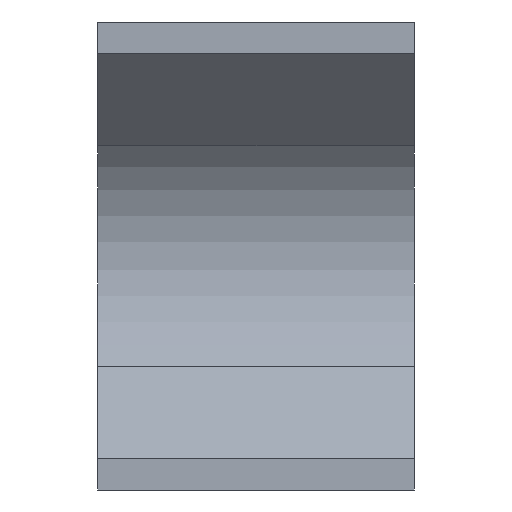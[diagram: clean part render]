
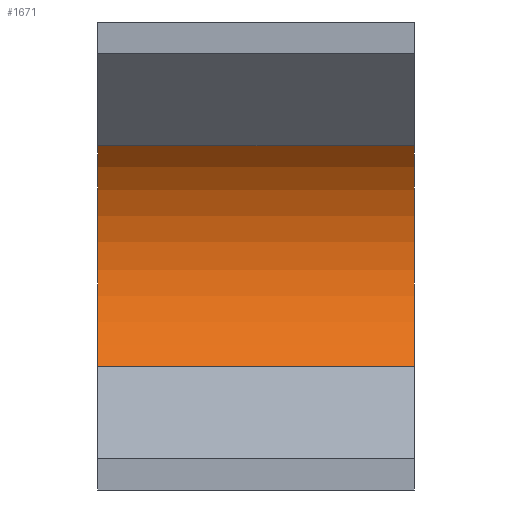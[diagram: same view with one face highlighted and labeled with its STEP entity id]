
A CAD part, left-side view. The second image highlights one B-rep face of the part: STEP entity #1671.
In plain terms, the highlighted cylindrical face has radius 10 mm (diameter 20 mm), a partial arc.
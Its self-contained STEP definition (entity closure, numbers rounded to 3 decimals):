
#249 = EDGE_LOOP ( 'NONE', ( #3006, #5834, #9264, #4444 ) ) ;
#577 = LINE ( 'NONE', #11121, #741 ) ;
#650 = VERTEX_POINT ( 'NONE', #6204 ) ;
#741 = VECTOR ( 'NONE', #13240, 1000. ) ;
#958 = FACE_OUTER_BOUND ( 'NONE', #249, .T. ) ;
#1435 = CARTESIAN_POINT ( 'NONE',  ( -14.142, -10.16, 0. ) ) ;
#1671 = ADVANCED_FACE ( 'NONE', ( #958 ), #13497, .F. ) ;
#2041 = AXIS2_PLACEMENT_3D ( 'NONE', #7166, #2923, #11289 ) ;
#2137 = VERTEX_POINT ( 'NONE', #10265 ) ;
#2923 = DIRECTION ( 'NONE',  ( 0., -1., 0. ) ) ;
#3006 = ORIENTED_EDGE ( 'NONE', *, *, #9034, .F. ) ;
#3540 = VERTEX_POINT ( 'NONE', #8561 ) ;
#3881 = EDGE_CURVE ( 'NONE', #5577, #650, #11877, .T. ) ;
#4317 = CARTESIAN_POINT ( 'NONE',  ( -14.142, 10.16, 0. ) ) ;
#4444 = ORIENTED_EDGE ( 'NONE', *, *, #10304, .F. ) ;
#5577 = VERTEX_POINT ( 'NONE', #12825 ) ;
#5617 = DIRECTION ( 'NONE',  ( 0., 1., 0. ) ) ;
#5834 = ORIENTED_EDGE ( 'NONE', *, *, #10068, .F. ) ;
#5974 = CARTESIAN_POINT ( 'NONE',  ( -7.071, 10.16, 7.071 ) ) ;
#6204 = CARTESIAN_POINT ( 'NONE',  ( -7.071, -10.16, -7.071 ) ) ;
#7166 = CARTESIAN_POINT ( 'NONE',  ( -14.142, 10.16, 0. ) ) ;
#8392 = CIRCLE ( 'NONE', #2041, 10. ) ;
#8561 = CARTESIAN_POINT ( 'NONE',  ( -7.071, 10.16, -7.071 ) ) ;
#8912 = DIRECTION ( 'NONE',  ( 0., 0., -1. ) ) ;
#9034 = EDGE_CURVE ( 'NONE', #3540, #2137, #8392, .T. ) ;
#9264 = ORIENTED_EDGE ( 'NONE', *, *, #3881, .F. ) ;
#9595 = DIRECTION ( 'NONE',  ( 0., 0., -1. ) ) ;
#10068 = EDGE_CURVE ( 'NONE', #650, #3540, #577, .T. ) ;
#10265 = CARTESIAN_POINT ( 'NONE',  ( -7.071, 10.16, 7.071 ) ) ;
#10304 = EDGE_CURVE ( 'NONE', #2137, #5577, #13236, .T. ) ;
#10617 = DIRECTION ( 'NONE',  ( 0., -1., 0. ) ) ;
#11121 = CARTESIAN_POINT ( 'NONE',  ( -7.071, 10.16, -7.071 ) ) ;
#11257 = DIRECTION ( 'NONE',  ( 0., -1., 0. ) ) ;
#11289 = DIRECTION ( 'NONE',  ( 0., 0., 1. ) ) ;
#11664 = AXIS2_PLACEMENT_3D ( 'NONE', #4317, #10617, #9595 ) ;
#11877 = CIRCLE ( 'NONE', #12104, 10. ) ;
#12104 = AXIS2_PLACEMENT_3D ( 'NONE', #1435, #5617, #8912 ) ;
#12334 = VECTOR ( 'NONE', #11257, 1000. ) ;
#12825 = CARTESIAN_POINT ( 'NONE',  ( -7.071, -10.16, 7.071 ) ) ;
#13236 = LINE ( 'NONE', #5974, #12334 ) ;
#13240 = DIRECTION ( 'NONE',  ( 0., 1., 0. ) ) ;
#13497 = CYLINDRICAL_SURFACE ( 'NONE', #11664, 10. ) ;
